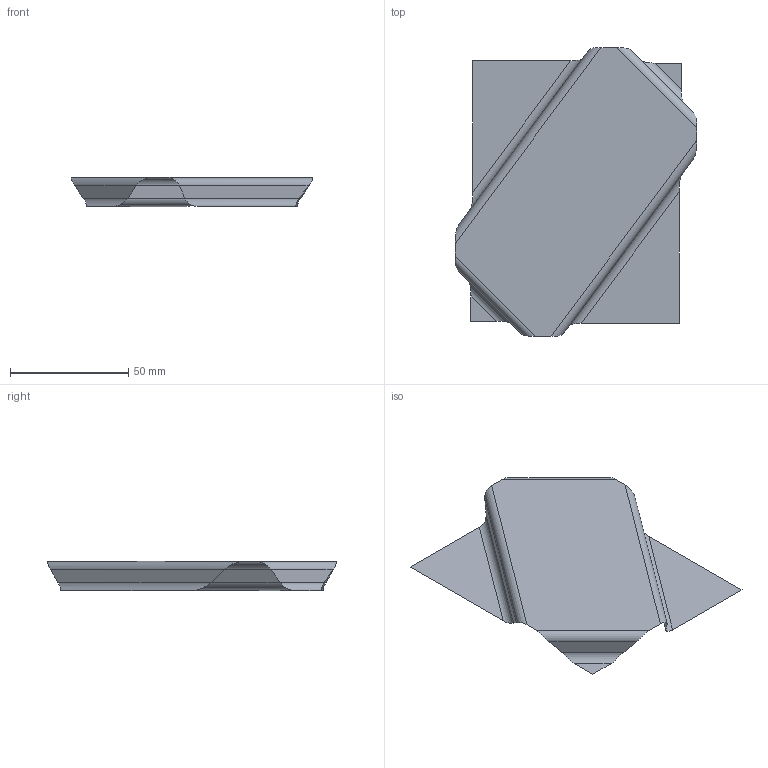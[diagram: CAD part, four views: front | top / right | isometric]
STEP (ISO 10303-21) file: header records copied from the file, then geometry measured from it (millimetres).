
FILE_DESCRIPTION(('CATIA V5 STEP Exchange'),'2;1');
FILE_NAME('C:\_Andres\UNIVERSIDAD\IQS\ASIGNATURAS\DAO\EXF\EXF-15161c\1original\Hoque_Tumanguil_Ej03-chapa_v12.stp','2016-03-04T16:55:53+00:00',('none'),('none'),'CATIA Version 5 Release 20 SP 1 (IN-10)','CATIA V5 STEP AP203','none');
FILE_SCHEMA(('CONFIG_CONTROL_DESIGN'));
Length unit declared in the file: millimetre
Products named in the file (1): Hoque_Tumanguil_Ej03-chapa_v12
Bounding box: 102.01 x 122.01 x 12.29 mm (x, y, z)
Surface area: 12485.1 mm2 (no closed solid volume)
Topology: 0 solids, 1 shells, 17 faces, 52 edges, 36 vertices
Faces by surface type: plane 9, cylinder 8
Entity records: 627 total; most frequent: CARTESIAN_POINT 198, ORIENTED_EDGE 68, DIRECTION 61, EDGE_CURVE 52, VERTEX_POINT 36, B_SPLINE_CURVE_WITH_KNOTS 27, VECTOR 25, LINE 25
